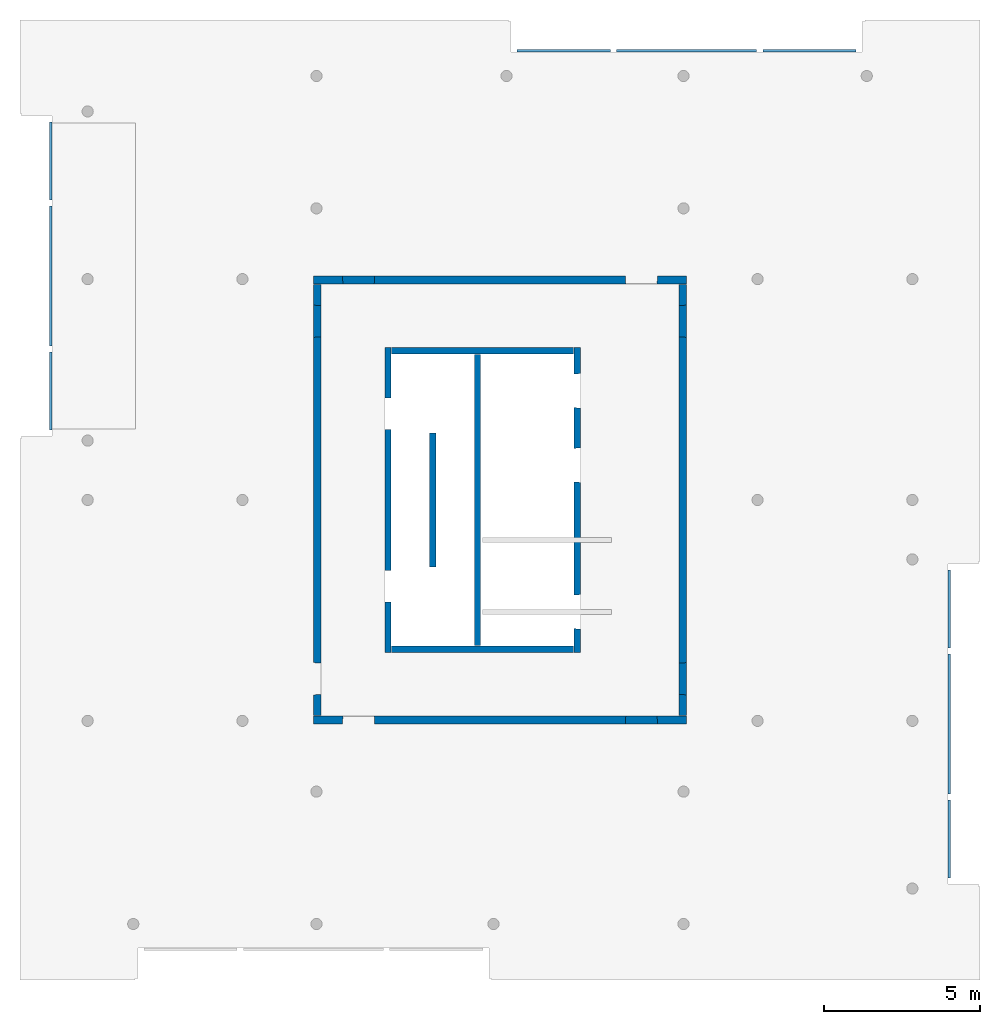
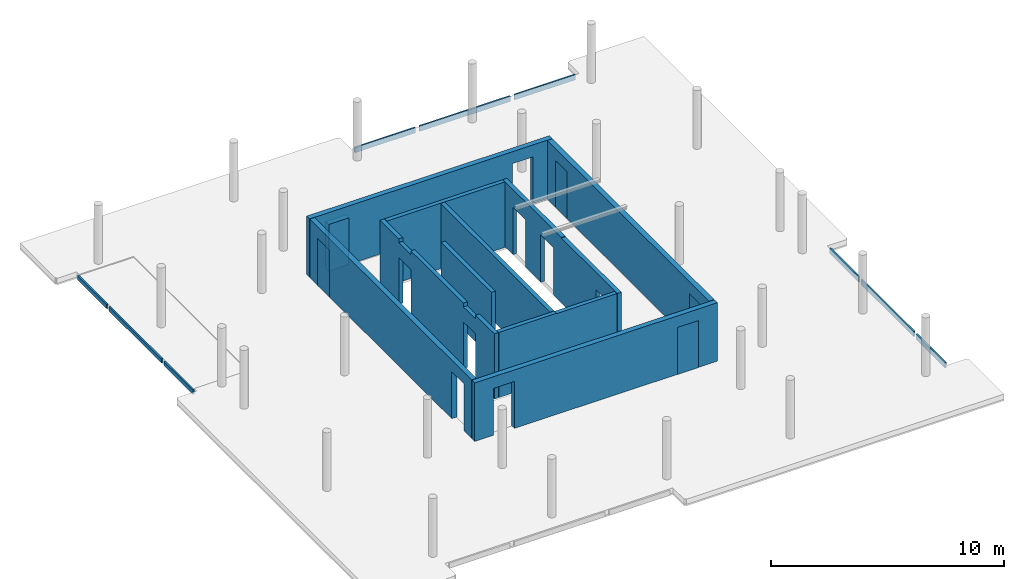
# One storey, part 2 of 3: 25 walls, 23 openings.
"""IFC2X3 building model written with IfcOpenShell, lengths in millimetres."""

from ifc_helpers import new_model, entity, si_unit, converted_unit, derived_unit, direction, frame, frame_2d, origin, origin_2d_with_axis, place, context, subcontext, project, spatial, rectangle, extrude, face_set, faceted_brep, surface_model, material, layer, layer_set, layer_usage, type_object, element, save


model = new_model("IFC2X3")

# Units and contexts
model_context = context("Model", 3, precision=0.01, world=origin(), true_north=direction((6.12303176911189e-17, 1.0)))
body_context = subcontext(model_context, "Body", "Model", "MODEL_VIEW")
ifc_project = project(units=[si_unit("LENGTHUNIT", "METRE", prefix="MILLI"), si_unit("AREAUNIT", "SQUARE_METRE"), si_unit("VOLUMEUNIT", "CUBIC_METRE"), converted_unit("PLANEANGLEUNIT", "DEGREE", entity("IfcRatioMeasure", 0.0174532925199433), si_unit("PLANEANGLEUNIT", "RADIAN"), dimensions=[0, 0, 0, 0, 0, 0, 0]), si_unit("MASSUNIT", "GRAM", prefix="KILO"), derived_unit("MASSDENSITYUNIT", [(si_unit("MASSUNIT", "GRAM", prefix="KILO"), 1), (si_unit("LENGTHUNIT", "METRE"), -3)]), si_unit("TIMEUNIT", "SECOND"), si_unit("FREQUENCYUNIT", "HERTZ"), si_unit("THERMODYNAMICTEMPERATUREUNIT", "DEGREE_CELSIUS"), derived_unit("THERMALTRANSMITTANCEUNIT", [(si_unit("MASSUNIT", "GRAM", prefix="KILO"), 1), (si_unit("THERMODYNAMICTEMPERATUREUNIT", "KELVIN"), -1), (si_unit("TIMEUNIT", "SECOND"), -3)]), derived_unit("VOLUMETRICFLOWRATEUNIT", [(si_unit("LENGTHUNIT", "METRE"), 3), (si_unit("TIMEUNIT", "SECOND"), -1)]), si_unit("ELECTRICCURRENTUNIT", "AMPERE"), si_unit("ELECTRICVOLTAGEUNIT", "VOLT"), si_unit("POWERUNIT", "WATT"), si_unit("FORCEUNIT", "NEWTON", prefix="KILO"), si_unit("ILLUMINANCEUNIT", "LUX"), si_unit("LUMINOUSFLUXUNIT", "LUMEN"), si_unit("LUMINOUSINTENSITYUNIT", "CANDELA"), derived_unit("USERDEFINED", [(si_unit("MASSUNIT", "GRAM", prefix="KILO"), -1), (si_unit("LENGTHUNIT", "METRE"), -2), (si_unit("TIMEUNIT", "SECOND"), 3), (si_unit("LUMINOUSFLUXUNIT", "LUMEN"), 1)]), derived_unit("LINEARVELOCITYUNIT", [(si_unit("LENGTHUNIT", "METRE"), 1), (si_unit("TIMEUNIT", "SECOND"), -1)]), si_unit("PRESSUREUNIT", "PASCAL"), derived_unit("USERDEFINED", [(si_unit("LENGTHUNIT", "METRE"), -2), (si_unit("MASSUNIT", "GRAM", prefix="KILO"), 1), (si_unit("TIMEUNIT", "SECOND"), -2)])], contexts=[model_context])

# Site, building, storey
site_placement = place(None, origin())
site = spatial("IfcSite", under=ifc_project, at=site_placement, Name="Default", CompositionType="ELEMENT")
building_placement = place(site_placement, origin())
building = spatial("IfcBuilding", under=site, at=building_placement, Name="niet gebruiken", CompositionType="ELEMENT")
storey_placement = place(building_placement, frame((0.0, 0.0, 171740.0)))
storey = spatial("IfcBuildingStorey", under=building, at=storey_placement, Name="55 vijfenvijftigste verdieping", CompositionType="ELEMENT", Elevation=171740.0)

# Wall, openings
ifc_material_1 = material(Name="NLRS_f2_beton prefab")
ifc_layer_1 = layer(ifc_material_1, 200.0)
ifc_layer_set_1 = layer_set([ifc_layer_1], Name="Basic Wall:NLRS_22.21_WA_beton prefab d=200_gen")
ifc_layer_usage_1 = layer_usage(ifc_layer_set_1, "AXIS2", "NEGATIVE", 100.0)
wall_type_1 = type_object("IfcWallType", Name="Basic Wall:NLRS_22.21_WA_beton prefab d=200_gen", PredefinedType="STANDARD", material=ifc_layer_set_1)
wall_1_placement = place(storey_placement, frame((138150.0, 22400.0, -50.0), z_axis=(0.0, 0.0, 1.0), x_axis=(0.0, -1.0, 0.0)))
wall_1 = element("IfcWallStandardCase", 1, at=wall_1_placement, inside=storey, type_object=wall_type_1, material=ifc_layer_usage_1, Name="Basic Wall:NLRS_22.21_WA_beton prefab d=200_gen", ObjectType="Basic Wall:NLRS_22.21_WA_beton prefab d=200_gen", context=body_context, shape_type="SweptSolid", body=[
    extrude(rectangle(XDim=9800.0, YDim=199.999999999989, at=frame_2d((4900.0, 3.76587649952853e-13), x_axis=(-1.0, 0.0))), origin(), (0.0, 0.0, 1.0), 3419.99999999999),
])
opening_1_placement = place(wall_1_placement, origin())
element("IfcOpeningElement", 2, at=opening_1_placement, cuts=wall_1, Name="Basic Wall:NLRS_22.21_WA_beton prefab d=200_gen", ObjectType="Opening", context=body_context, shape_type="SweptSolid", body=[
    extrude(rectangle(XDim=200.000000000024, YDim=1044.0, at=origin_2d_with_axis()), frame((7672.0, -100.0, 3320.0), z_axis=(0.0, 1.0, 0.0), x_axis=(0.0, 0.0, -1.0)), (0.0, 0.0, 1.0), 199.999999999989),
])
opening_2_placement = place(wall_1_placement, origin())
element("IfcOpeningElement", 3, at=opening_2_placement, cuts=wall_1, Name="Basic Wall:NLRS_22.21_WA_beton prefab d=200_gen", ObjectType="Opening", context=body_context, shape_type="SweptSolid", body=[
    extrude(rectangle(XDim=200.000000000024, YDim=1044.0, at=frame_2d((0.0, 2.1600499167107e-12), x_axis=(1.0, 0.0))), frame((2128.0, -100.0, 3320.0), z_axis=(0.0, 1.0, 0.0), x_axis=(0.0, 0.0, -1.0)), (0.0, 0.0, 1.0), 199.999999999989),
])
opening_3_placement = place(wall_1_placement, origin())
element("IfcOpeningElement", 4, at=opening_3_placement, cuts=wall_1, Name="Basic Wall:NLRS_22.21_WA_beton prefab d=200_gen", ObjectType="Opening", context=body_context, shape_type="SweptSolid", body=[
    extrude(rectangle(XDim=2434.99999999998, YDim=1015.99999999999, at=frame_2d((0.0, -1.10844666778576e-12), x_axis=(1.0, 0.0))), frame((7672.0, -100.0, 1217.49999999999), z_axis=(0.0, 1.0, 0.0), x_axis=(0.0, 0.0, -1.0)), (0.0, 0.0, 1.0), 199.999999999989),
])
opening_4_placement = place(wall_1_placement, origin())
element("IfcOpeningElement", 5, at=opening_4_placement, cuts=wall_1, Name="Basic Wall:NLRS_22.21_WA_beton prefab d=200_gen", ObjectType="Opening", context=body_context, shape_type="SweptSolid", body=[
    extrude(rectangle(XDim=2434.99999999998, YDim=1015.99999999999, at=frame_2d((0.0, -2.18847162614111e-12), x_axis=(1.0, 0.0))), frame((2128.0, -100.0, 1217.49999999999), z_axis=(0.0, 1.0, 0.0), x_axis=(0.0, 0.0, -1.0)), (0.0, 0.0, 1.0), 199.999999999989),
])

ifc_layer_usage_2 = layer_usage(ifc_layer_set_1, "AXIS2", "NEGATIVE", 100.0)
wall_2_placement = place(storey_placement, frame((144230.0, 22400.0, -50.0), z_axis=(0.0, 0.0, 1.0), x_axis=(0.0, -1.0, 0.0)))
wall_2 = element("IfcWallStandardCase", 6, at=wall_2_placement, inside=storey, type_object=wall_type_1, material=ifc_layer_usage_2, Name="Basic Wall:NLRS_22.21_WA_beton prefab d=200_gen", ObjectType="Basic Wall:NLRS_22.21_WA_beton prefab d=200_gen", context=body_context, shape_type="SweptSolid", body=[
    extrude(rectangle(XDim=9800.0, YDim=199.999999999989, at=frame_2d((4900.0, -3.69482222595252e-13), x_axis=(-1.0, 0.0))), origin(), (0.0, 0.0, 1.0), 3419.99999999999),
])
opening_5_placement = place(wall_2_placement, frame((4332.0, -100.0, 0.0)))
element("IfcOpeningElement", 7, at=opening_5_placement, cuts=wall_2, Name="Basic Wall:NLRS_22.21_WA_beton prefab d=200_gen", ObjectType="Opening", context=body_context, shape_type="Brep", body=[
    faceted_brep([(-1104.0, 200.0, 2502.0), (-1104.0, 200.0, 0.0), (-1092.0, 0.0, 0.0), (-1092.0, 0.0, 2490.0), (0.0, 200.0, 0.0), (-12.0, 0.0, 0.0), (-12.0, 0.0, 2490.0), (0.0, 200.0, 2502.0)], [[[0, 1, 2, 3]], [[1, 4, 5, 2]], [[6, 3, 2, 5]], [[7, 4, 1, 0]], [[7, 0, 3, 6]], [[4, 7, 6, 5]]]),
])
opening_6_placement = place(wall_2_placement, frame((1942.0, -100.0, 0.0)))
element("IfcOpeningElement", 8, at=opening_6_placement, cuts=wall_2, Name="Basic Wall:NLRS_22.21_WA_beton prefab d=200_gen", ObjectType="Opening", context=body_context, shape_type="Brep", body=[
    faceted_brep([(-1104.0, 200.0, 2502.0), (-1104.0, 200.0, 0.0), (-1092.0, 0.0, 0.0), (-1092.0, 0.0, 2490.0), (0.0, 200.0, 0.0), (-12.0, 0.0, 0.0), (-12.0, 0.0, 2490.0), (0.0, 200.0, 2502.0)], [[[0, 1, 2, 3]], [[1, 4, 5, 2]], [[6, 3, 2, 5]], [[7, 4, 1, 0]], [[7, 0, 3, 6]], [[4, 7, 6, 5]]]),
])
opening_7_placement = place(wall_2_placement, frame((9047.0, -100.0, 0.0)))
element("IfcOpeningElement", 9, at=opening_7_placement, cuts=wall_2, Name="Basic Wall:NLRS_22.21_WA_beton prefab d=200_gen", ObjectType="Opening", context=body_context, shape_type="Brep", body=[
    faceted_brep([(-12.0, 0.0, 2490.0), (-1092.0, 0.0, 2490.0), (-1092.0, 0.0, 0.0), (-12.0, 0.0, 0.0), (0.0, 200.0, 2502.0), (0.0, 200.0, 0.0), (-1104.0, 200.0, 0.0), (-1104.0, 200.0, 2502.0)], [[[0, 1, 2, 3]], [[4, 5, 6, 7]], [[4, 7, 1, 0]], [[7, 6, 2, 1]], [[6, 5, 3, 2]], [[5, 4, 0, 3]]]),
])
opening_8_placement = place(wall_2_placement, origin())
element("IfcOpeningElement", 10, at=opening_8_placement, cuts=wall_2, Name="Basic Wall:NLRS_22.21_WA_beton prefab d=200_gen", ObjectType="Opening", context=body_context, shape_type="SweptSolid", body=[
    extrude(rectangle(XDim=20.0000000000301, YDim=4800.0, at=frame_2d((1.73256964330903e-11, 0.0), x_axis=(1.0, 0.0))), frame((7400.0, 100.0, 3410.0), z_axis=(0.0, -1.0, 0.0), x_axis=(0.0, 0.0, 1.0)), (0.0, 0.0, 1.0), 200.0),
])

ifc_layer_usage_3 = layer_usage(ifc_layer_set_1, "AXIS2", "NEGATIVE", 100.0)
wall_3_placement = place(storey_placement, frame((141030.0, 22180.0, -50.0), z_axis=(0.0, 0.0, 1.0), x_axis=(0.0, -1.0, 0.0)))
wall_3 = element("IfcWallStandardCase", 11, at=wall_3_placement, inside=storey, type_object=wall_type_1, material=ifc_layer_usage_3, Name="Basic Wall:NLRS_22.21_WA_beton prefab d=200_gen", ObjectType="Basic Wall:NLRS_22.21_WA_beton prefab d=200_gen", context=body_context, shape_type="SweptSolid", body=[
    extrude(rectangle(XDim=9360.0, YDim=199.999999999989, at=frame_2d((4680.0, -2.8421709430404e-14), x_axis=(-1.0, 0.0))), origin(), (0.0, 0.0, 1.0), 3419.99999999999),
])
opening_9_placement = place(wall_3_placement, origin())
element("IfcOpeningElement", 12, at=opening_9_placement, cuts=wall_3, Name="Basic Wall:NLRS_22.21_WA_beton prefab d=200_gen", ObjectType="Opening", context=body_context, shape_type="SweptSolid", body=[
    extrude(rectangle(XDim=69.9999999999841, YDim=1044.0, at=frame_2d((-1.732658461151e-11, 2.1600499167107e-12), x_axis=(1.0, 0.0))), frame((1908.0, -100.0, 35.0), z_axis=(0.0, 1.0, 0.0), x_axis=(0.0, 0.0, -1.0)), (0.0, 0.0, 1.0), 199.999999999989),
])
opening_10_placement = place(wall_3_placement, origin())
element("IfcOpeningElement", 13, at=opening_10_placement, cuts=wall_3, Name="Basic Wall:NLRS_22.21_WA_beton prefab d=200_gen", ObjectType="Opening", context=body_context, shape_type="SweptSolid", body=[
    extrude(rectangle(XDim=69.9999999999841, YDim=1044.0, at=frame_2d((-1.732658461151e-11, 2.1600499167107e-12), x_axis=(1.0, 0.0))), frame((7452.0, -100.0, 35.0), z_axis=(0.0, 1.0, 0.0), x_axis=(0.0, 0.0, -1.0)), (0.0, 0.0, 1.0), 199.999999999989),
])
opening_11_placement = place(wall_3_placement, origin())
element("IfcOpeningElement", 14, at=opening_11_placement, cuts=wall_3, Name="Basic Wall:NLRS_22.21_WA_beton prefab d=200_gen", ObjectType="Recess", context=body_context, shape_type="SweptSolid", body=[
    extrude(rectangle(XDim=399.999999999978, YDim=280.000000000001, at=frame_2d((-2.1600499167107e-12, 0.0), x_axis=(0.0, 1.0))), frame((770.0, -60.0, 438.0), z_axis=(0.0, 1.0, 0.0), x_axis=(1.0, 0.0, 0.0)), (0.0, 0.0, 1.0), 159.999999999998),
])
opening_12_placement = place(wall_3_placement, origin())
element("IfcOpeningElement", 15, at=opening_12_placement, cuts=wall_3, Name="Basic Wall:NLRS_22.21_WA_beton prefab d=200_gen", ObjectType="Recess", context=body_context, shape_type="SweptSolid", body=[
    extrude(rectangle(XDim=399.999999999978, YDim=279.999999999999, at=frame_2d((1.08002495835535e-12, 0.0), x_axis=(0.0, 1.0))), frame((3160.0, -60.0, 438.0), z_axis=(0.0, 1.0, 0.0), x_axis=(1.0, 0.0, 0.0)), (0.0, 0.0, 1.0), 159.999999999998),
])
opening_13_placement = place(wall_3_placement, origin())
element("IfcOpeningElement", 16, at=opening_13_placement, cuts=wall_3, Name="Basic Wall:NLRS_22.21_WA_beton prefab d=200_gen", ObjectType="Recess", context=body_context, shape_type="SweptSolid", body=[
    extrude(rectangle(XDim=399.999999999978, YDim=279.999999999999, at=frame_2d((-1.08002495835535e-12, 0.0), x_axis=(0.0, 1.0))), frame((3960.0, -60.0, 438.0), z_axis=(0.0, 1.0, 0.0), x_axis=(1.0, 0.0, 0.0)), (0.0, 0.0, 1.0), 159.999999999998),
])
opening_14_placement = place(wall_3_placement, origin())
element("IfcOpeningElement", 17, at=opening_14_placement, cuts=wall_3, Name="Basic Wall:NLRS_22.21_WA_beton prefab d=200_gen", ObjectType="Recess", context=body_context, shape_type="SweptSolid", body=[
    extrude(rectangle(XDim=399.999999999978, YDim=280.000000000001, at=frame_2d((2.1600499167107e-12, 0.0), x_axis=(0.0, 1.0))), frame((1570.0, -60.0, 438.0), z_axis=(0.0, 1.0, 0.0), x_axis=(1.0, 0.0, 0.0)), (0.0, 0.0, 1.0), 159.999999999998),
])

# Wall
ifc_layer_usage_4 = layer_usage(ifc_layer_set_1, "AXIS2", "NEGATIVE", 100.0)
wall_4_placement = place(storey_placement, frame((139590.0, 19660.0, -50.0), z_axis=(0.0, 0.0, 1.0), x_axis=(0.0, -1.0, 0.0)))
element("IfcWallStandardCase", 18, at=wall_4_placement, inside=storey, type_object=wall_type_1, material=ifc_layer_usage_4, Name="Basic Wall:NLRS_22.21_WA_beton prefab d=200_gen", ObjectType="Basic Wall:NLRS_22.21_WA_beton prefab d=200_gen", context=body_context, shape_type="SweptSolid", body=[
    extrude(rectangle(XDim=4319.99999999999, YDim=199.999999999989, at=frame_2d((2160.0, 0.0), x_axis=(-1.0, 0.0))), origin(), (0.0, 0.0, 1.0), 3419.99999999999),
])

# Wall, opening
ifc_layer_usage_5 = layer_usage(ifc_layer_set_1, "AXIS2", "NEGATIVE", 100.0)
wall_5_placement = place(storey_placement, frame((138270.0, 12700.0, -50.0)))
wall_5 = element("IfcWallStandardCase", 19, at=wall_5_placement, inside=storey, type_object=wall_type_1, material=ifc_layer_usage_5, Name="Basic Wall:NLRS_22.21_WA_beton prefab d=200_gen", ObjectType="Basic Wall:NLRS_22.21_WA_beton prefab d=200_gen", context=body_context, shape_type="SweptSolid", body=[
    extrude(rectangle(XDim=5839.99999999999, YDim=200.000000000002, at=frame_2d((2919.99999999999, -6.89226453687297e-13), x_axis=(-1.0, 0.0))), origin(), (0.0, 0.0, 1.0), 3419.99999999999),
])
opening_15_placement = place(wall_5_placement, origin())
element("IfcOpeningElement", 20, at=opening_15_placement, cuts=wall_5, Name="Basic Wall:NLRS_22.21_WA_beton prefab d=200_gen", ObjectType="Opening", context=body_context, shape_type="SweptSolid", body=[
    extrude(rectangle(XDim=20.0000000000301, YDim=2980.0, at=frame_2d((1.73256964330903e-11, -8.64019966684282e-12), x_axis=(1.0, 0.0))), frame((4350.0, 100.0, 3410.0), z_axis=(0.0, -1.0, 0.0), x_axis=(0.0, 0.0, 1.0)), (0.0, 0.0, 1.0), 200.0),
])

# Wall
ifc_layer_usage_6 = layer_usage(ifc_layer_set_1, "AXIS2", "NEGATIVE", 100.0)
wall_6_placement = place(storey_placement, frame((138270.0, 22300.0, -50.0)))
element("IfcWallStandardCase", 21, at=wall_6_placement, inside=storey, type_object=wall_type_1, material=ifc_layer_usage_6, Name="Basic Wall:NLRS_22.21_WA_beton prefab d=200_gen", ObjectType="Basic Wall:NLRS_22.21_WA_beton prefab d=200_gen", context=body_context, shape_type="SweptSolid", body=[
    extrude(rectangle(XDim=5839.99999999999, YDim=199.999999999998, at=frame_2d((2919.99999999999, -7.60280727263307e-13), x_axis=(-1.0, 0.0))), origin(), (0.0, 0.0, 1.0), 3419.99999999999),
])

# Wall, openings
ifc_layer_2 = layer(ifc_material_1, 250.0)
ifc_layer_set_2 = layer_set([ifc_layer_2], Name="Basic Wall:NLRS_22.21_WA_beton prefab d=250_gen")
ifc_layer_usage_7 = layer_usage(ifc_layer_set_2, "AXIS2", "NEGATIVE", 125.0)
wall_type_2 = type_object("IfcWallType", Name="Basic Wall:NLRS_22.21_WA_beton prefab d=250_gen", PredefinedType="STANDARD", material=ifc_layer_set_2)
wall_7_placement = place(storey_placement, frame((135750.0, 24575.0, -60.0)))
wall_7 = element("IfcWallStandardCase", 22, at=wall_7_placement, inside=storey, type_object=wall_type_2, material=ifc_layer_usage_7, Name="Basic Wall:NLRS_22.21_WA_beton prefab d=250_gen", ObjectType="Basic Wall:NLRS_22.21_WA_beton prefab d=250_gen", context=body_context, shape_type="SweptSolid", body=[
    extrude(rectangle(XDim=12000.0000000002, YDim=250.000000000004, at=frame_2d((6000.0000000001, -2.77111666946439e-13), x_axis=(-1.0, 0.0))), origin(), (0.0, 0.0, 1.0), 3059.99999999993),
])
opening_16_placement = place(wall_7_placement, frame((10029.0, -125.0, -10.0)))
element("IfcOpeningElement", 23, at=opening_16_placement, cuts=wall_7, Name="Basic Wall:NLRS_22.21_WA_beton prefab d=250_gen", ObjectType="Opening", context=body_context, shape_type="Brep", body=[
    faceted_brep([(0.0, 250.0, 2463.0), (0.0, 250.0, 0.0), (15.0, 0.0, 0.0), (15.0, 0.0, 2448.0), (1036.0, 250.0, 0.0), (1021.0, 0.0, 0.0), (1021.0, 0.0, 2448.0), (1036.0, 250.0, 2463.0)], [[[0, 1, 2, 3]], [[1, 4, 5, 2]], [[6, 3, 2, 5]], [[7, 4, 1, 0]], [[7, 0, 3, 6]], [[4, 7, 6, 5]]]),
])
opening_17_placement = place(wall_7_placement, frame((935.0, -125.0, -10.0)))
element("IfcOpeningElement", 24, at=opening_17_placement, cuts=wall_7, Name="Basic Wall:NLRS_22.21_WA_beton prefab d=250_gen", ObjectType="Opening", context=body_context, shape_type="Brep", body=[
    faceted_brep([(0.0, 250.0, 2463.0), (0.0, 250.0, 0.0), (15.0, 0.0, 0.0), (15.0, 0.0, 2448.0), (1036.0, 250.0, 0.0), (1021.0, 0.0, 0.0), (1021.0, 0.0, 2448.0), (1036.0, 250.0, 2463.0)], [[[0, 1, 2, 3]], [[1, 4, 5, 2]], [[6, 3, 2, 5]], [[7, 4, 1, 0]], [[7, 0, 3, 6]], [[4, 7, 6, 5]]]),
])

ifc_layer_usage_8 = layer_usage(ifc_layer_set_2, "AXIS2", "NEGATIVE", 125.0)
wall_8_placement = place(storey_placement, frame((135875.0, 24430.0, -60.0), z_axis=(0.0, 0.0, 1.0), x_axis=(0.0, -1.0, 0.0)))
wall_8 = element("IfcWallStandardCase", 25, at=wall_8_placement, inside=storey, type_object=wall_type_2, material=ifc_layer_usage_8, Name="Basic Wall:NLRS_22.21_WA_beton prefab d=250_gen", ObjectType="Basic Wall:NLRS_22.21_WA_beton prefab d=250_gen", context=body_context, shape_type="SweptSolid", body=[
    extrude(rectangle(XDim=13860.0, YDim=250.000000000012, at=frame_2d((6930.0, -2.8421709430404e-14), x_axis=(-1.0, 0.0))), origin(), (0.0, 0.0, 1.0), 3059.99999999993),
])
opening_18_placement = place(wall_8_placement, frame((13195.0, -125.0, -10.0)))
element("IfcOpeningElement", 26, at=opening_18_placement, cuts=wall_8, Name="Basic Wall:NLRS_22.21_WA_beton prefab d=250_gen", ObjectType="Opening", context=body_context, shape_type="Brep", body=[
    faceted_brep([(-1036.0, 0.0, 2463.0), (-1021.0, 250.0, 2448.0), (-1021.0, 250.0, 0.0), (-1036.0, 0.0, 0.0), (-15.0, 250.0, 0.0), (0.0, 0.0, 0.0), (-15.0, 250.0, 2448.0), (0.0, 0.0, 2463.0)], [[[0, 1, 2, 3]], [[3, 2, 4, 5]], [[6, 4, 2, 1]], [[7, 0, 3, 5]], [[7, 6, 1, 0]], [[5, 4, 6, 7]]]),
])
opening_19_placement = place(wall_8_placement, frame((1701.0, -125.0, -10.0)))
element("IfcOpeningElement", 27, at=opening_19_placement, cuts=wall_8, Name="Basic Wall:NLRS_22.21_WA_beton prefab d=250_gen", ObjectType="Opening", context=body_context, shape_type="Brep", body=[
    faceted_brep([(-1036.0, 0.0, 2463.0), (-1021.0, 250.0, 2448.0), (-1021.0, 250.0, 0.0), (-1036.0, 0.0, 0.0), (-15.0, 250.0, 0.0), (0.0, 0.0, 0.0), (-15.0, 250.0, 2448.0), (0.0, 0.0, 2463.0)], [[[0, 1, 2, 3]], [[3, 2, 4, 5]], [[6, 4, 2, 1]], [[7, 0, 3, 5]], [[7, 6, 1, 0]], [[5, 4, 6, 7]]]),
])

ifc_layer_usage_9 = layer_usage(ifc_layer_set_2, "AXIS2", "NEGATIVE", 125.0)
wall_9_placement = place(storey_placement, frame((135750.0, 10425.0, -60.0)))
wall_9 = element("IfcWallStandardCase", 28, at=wall_9_placement, inside=storey, type_object=wall_type_2, material=ifc_layer_usage_9, Name="Basic Wall:NLRS_22.21_WA_beton prefab d=250_gen", ObjectType="Basic Wall:NLRS_22.21_WA_beton prefab d=250_gen", context=body_context, shape_type="SweptSolid", body=[
    extrude(rectangle(XDim=11999.9999999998, YDim=249.999999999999, at=frame_2d((5999.99999999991, 8.02913291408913e-13), x_axis=(-1.0, 0.0))), origin(), (0.0, 0.0, 1.0), 3059.99999999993),
])
opening_20_placement = place(wall_9_placement, frame((10029.0, -125.0, -10.0)))
element("IfcOpeningElement", 29, at=opening_20_placement, cuts=wall_9, Name="Basic Wall:NLRS_22.21_WA_beton prefab d=250_gen", ObjectType="Opening", context=body_context, shape_type="Brep", body=[
    faceted_brep([(0.0, 0.0, 2463.0), (15.0, 250.0, 2448.0), (15.0, 250.0, 0.0), (0.0, 0.0, 0.0), (1021.0, 250.0, 0.0), (1036.0, 0.0, 0.0), (1021.0, 250.0, 2448.0), (1036.0, 0.0, 2463.0)], [[[0, 1, 2, 3]], [[3, 2, 4, 5]], [[6, 4, 2, 1]], [[7, 0, 3, 5]], [[7, 6, 1, 0]], [[5, 4, 6, 7]]]),
])
opening_21_placement = place(wall_9_placement, frame((935.0, -125.0, -10.0)))
element("IfcOpeningElement", 30, at=opening_21_placement, cuts=wall_9, Name="Basic Wall:NLRS_22.21_WA_beton prefab d=250_gen", ObjectType="Opening", context=body_context, shape_type="Brep", body=[
    faceted_brep([(0.0, 0.0, 2463.0), (15.0, 250.0, 2448.0), (15.0, 250.0, 0.0), (0.0, 0.0, 0.0), (1021.0, 250.0, 0.0), (1036.0, 0.0, 0.0), (1021.0, 250.0, 2448.0), (1036.0, 0.0, 2463.0)], [[[0, 1, 2, 3]], [[3, 2, 4, 5]], [[6, 4, 2, 1]], [[7, 0, 3, 5]], [[7, 6, 1, 0]], [[5, 4, 6, 7]]]),
])

ifc_layer_usage_10 = layer_usage(ifc_layer_set_2, "AXIS2", "NEGATIVE", 125.0)
wall_10_placement = place(storey_placement, frame((147625.0, 24430.0, -70.0), z_axis=(0.0, 0.0, 1.0), x_axis=(0.0, -1.0, 0.0)))
wall_10 = element("IfcWallStandardCase", 31, at=wall_10_placement, inside=storey, type_object=wall_type_2, material=ifc_layer_usage_10, Name="Basic Wall:NLRS_22.21_WA_beton prefab d=250_gen", ObjectType="Basic Wall:NLRS_22.21_WA_beton prefab d=250_gen", context=body_context, shape_type="SweptSolid", body=[
    extrude(rectangle(XDim=13860.0, YDim=250.000000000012, at=frame_2d((6930.0, -2.8421709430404e-14), x_axis=(-1.0, 0.0))), origin(), (0.0, 0.0, 1.0), 3069.99999999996),
])
opening_22_placement = place(wall_10_placement, frame((13195.0, -125.0, 0.0)))
element("IfcOpeningElement", 32, at=opening_22_placement, cuts=wall_10, Name="Basic Wall:NLRS_22.21_WA_beton prefab d=250_gen", ObjectType="Opening", context=body_context, shape_type="Brep", body=[
    faceted_brep([(-1036.0, 250.0, 2463.0), (-1036.0, 250.0, 0.0), (-1021.0, 0.0, 0.0), (-1021.0, 0.0, 2448.0), (0.0, 250.0, 0.0), (-15.0, 0.0, 0.0), (-15.0, 0.0, 2448.0), (0.0, 250.0, 2463.0)], [[[0, 1, 2, 3]], [[1, 4, 5, 2]], [[6, 3, 2, 5]], [[7, 4, 1, 0]], [[7, 0, 3, 6]], [[4, 7, 6, 5]]]),
])
opening_23_placement = place(wall_10_placement, frame((1701.0, -125.0, 0.0)))
element("IfcOpeningElement", 33, at=opening_23_placement, cuts=wall_10, Name="Basic Wall:NLRS_22.21_WA_beton prefab d=250_gen", ObjectType="Opening", context=body_context, shape_type="Brep", body=[
    faceted_brep([(-1036.0, 250.0, 2463.0), (-1036.0, 250.0, 0.0), (-1021.0, 0.0, 0.0), (-1021.0, 0.0, 2448.0), (0.0, 250.0, 0.0), (-15.0, 0.0, 0.0), (-15.0, 0.0, 2448.0), (0.0, 250.0, 2463.0)], [[[0, 1, 2, 3]], [[1, 4, 5, 2]], [[6, 3, 2, 5]], [[7, 4, 1, 0]], [[7, 0, 3, 6]], [[4, 7, 6, 5]]]),
])

# Walls
ifc_material_2 = material(Name="NLRS_f2_beton prefab dichtstorten")
wall_type_3 = type_object("IfcWallType", Name="Parametric Wall:NLRS_22.21_WA_beton prefab d=250 1006x2448_gen", PredefinedType="NOTDEFINED", material=ifc_material_2)
wall_11_placement = place(storey_placement, frame((136685.0, 24450.0, -70.0)))
element("IfcWall", 34, at=wall_11_placement, inside=storey, type_object=wall_type_3, material=ifc_material_2, Name="Parametric Wall:NLRS_22.21_WA_beton prefab d=250 1006x2448_gen", ObjectType="Parametric Wall:NLRS_22.21_WA_beton prefab d=250 1006x2448_gen", context=body_context, shape_type="SurfaceModel", body=[
    surface_model("IfcFaceBasedSurfaceModel", [(1036.0, 250.0, 2463.0), (1036.0, 250.0, 0.0), (0.0, 250.0, 0.0), (0.0, 250.0, 2463.0), (1021.0, 0.0, 2448.0), (1021.0, 0.0, 0.0), (15.0, 0.0, 0.0), (15.0, 0.0, 2448.0)], [face_set([[[0, 1, 2, 3]], [[4, 5, 6, 7]], [[4, 5, 1, 0]], [[5, 6, 2, 1]], [[6, 2, 3, 7]], [[7, 4, 0, 3]]])]),
])
wall_12_placement = place(storey_placement, frame((135750.0, 22729.0, -70.0), z_axis=(0.0, 0.0, 1.0), x_axis=(0.0, 1.0, 0.0)))
element("IfcWall", 35, at=wall_12_placement, inside=storey, type_object=wall_type_3, material=ifc_material_2, Name="Parametric Wall:NLRS_22.21_WA_beton prefab d=250 1006x2448_gen", ObjectType="Parametric Wall:NLRS_22.21_WA_beton prefab d=250 1006x2448_gen", context=body_context, shape_type="Brep", body=[
    faceted_brep([(1036.0, 0.0, 2463.0), (1036.0, 0.0, 10.0), (1036.0, 0.0, 0.0), (0.0, 0.0, 0.0), (0.0, 0.0, 10.0), (0.0, 0.0, 2463.0), (1021.0, -250.0, 2448.0), (15.0, -250.0, 2448.0), (15.0, -250.0, 10.0), (15.0, -250.0, 0.0), (1021.0, -250.0, 0.0), (1021.0, -250.0, 10.0)], [[[0, 1, 2, 3, 4, 5]], [[6, 7, 8, 9, 10, 11]], [[6, 11, 10, 2, 1, 0]], [[9, 8, 7, 5, 4, 3]], [[10, 9, 3, 2]], [[7, 6, 0, 5]]]),
])
wall_13_placement = place(storey_placement, frame((145779.0, 10300.0, -70.0)))
element("IfcWall", 36, at=wall_13_placement, inside=storey, type_object=wall_type_3, material=ifc_material_2, Name="Parametric Wall:NLRS_22.21_WA_beton prefab d=250 1006x2448_gen", ObjectType="Parametric Wall:NLRS_22.21_WA_beton prefab d=250 1006x2448_gen", context=body_context, shape_type="Brep", body=[
    faceted_brep([(0.0, 0.0, 2463.0), (0.0, 0.0, 10.0), (0.0, 0.0, 0.0), (1036.0, 0.0, 0.0), (1036.0, 0.0, 10.0), (1036.0, 0.0, 2463.0), (15.0, 250.0, 2448.0), (1021.0, 250.0, 2448.0), (1021.0, 250.0, 10.0), (1021.0, 250.0, 0.0), (15.0, 250.0, 0.0), (15.0, 250.0, 10.0)], [[[0, 1, 2, 3, 4, 5]], [[6, 7, 8, 9, 10, 11]], [[6, 11, 10, 2, 1, 0]], [[9, 8, 7, 5, 4, 3]], [[10, 9, 3, 2]], [[7, 6, 0, 5]]]),
])
for number, where, z_axis, x_axis in (
    (37, (147500.0, 11235.0, -70.0), (0.0, 0.0, 1.0), (0.0, 1.0, 0.0)),
    (38, (147500.0, 22729.0, -70.0), (0.0, 0.0, 1.0), (0.0, 1.0, 0.0)),
):
    element("IfcWall", number, at=place(storey_placement, frame(where, z_axis=z_axis, x_axis=x_axis)), inside=storey, type_object=wall_type_3, material=ifc_material_2, Name="Parametric Wall:NLRS_22.21_WA_beton prefab d=250 1006x2448_gen", ObjectType="Parametric Wall:NLRS_22.21_WA_beton prefab d=250 1006x2448_gen", context=body_context, shape_type="Brep", body=[
        faceted_brep([(0.0, -250.0, 2463.0), (0.0, -250.0, 0.0), (1036.0, -250.0, 0.0), (1036.0, -250.0, 2463.0), (15.0, 0.0, 2448.0), (1021.0, 0.0, 2448.0), (1021.0, 0.0, 0.0), (15.0, 0.0, 0.0)], [[[0, 1, 2, 3]], [[4, 5, 6, 7]], [[4, 7, 1, 0]], [[6, 5, 3, 2]], [[7, 6, 2, 1]], [[5, 4, 0, 3]]]),
    ])
wall_14_placement = place(storey_placement, frame((136685.0, 24450.0, -70.0)))
element("IfcWall", 39, at=wall_14_placement, inside=storey, type_object=wall_type_3, material=ifc_material_2, Name="Parametric Wall:NLRS_22.21_WA_beton prefab d=250 1006x2448_gen", ObjectType="Parametric Wall:NLRS_22.21_WA_beton prefab d=250 1006x2448_gen", context=body_context, shape_type="Brep", body=[
    faceted_brep([(1036.0, 250.0, 2463.0), (1036.0, 250.0, 10.0), (1036.0, 250.0, 0.0), (0.0, 250.0, 0.0), (0.0, 250.0, 10.0), (0.0, 250.0, 2463.0), (1021.0, 0.0, 2448.0), (15.0, 0.0, 2448.0), (15.0, 0.0, 10.0), (15.0, 0.0, 0.0), (1021.0, 0.0, 0.0), (1021.0, 0.0, 10.0)], [[[0, 1, 2, 3, 4, 5]], [[6, 7, 8, 9, 10, 11]], [[6, 11, 10, 2, 1, 0]], [[9, 8, 7, 5, 4, 3]], [[10, 9, 3, 2]], [[7, 6, 0, 5]]]),
])
ifc_material_3 = material(Name="NLRS_a_isolatie")
ifc_layer_3 = layer(ifc_material_3, 80.0)
ifc_layer_set_3 = layer_set([ifc_layer_3], Name="Basic Wall:NLRS_21.10_WA_isokorf d=80_gen")
ifc_layer_usage_11 = layer_usage(ifc_layer_set_3, "AXIS2", "NEGATIVE", 40.0)
wall_type_4 = type_object("IfcWallType", Name="Basic Wall:NLRS_21.10_WA_isokorf d=80_gen", PredefinedType="STANDARD", material=ifc_layer_set_3)
wall_15_placement = place(storey_placement, frame((145500.0, 31945.0, -360.0)))
element("IfcWallStandardCase", 40, at=wall_15_placement, inside=storey, type_object=wall_type_4, material=ifc_layer_usage_11, Name="Basic Wall:NLRS_21.10_WA_isokorf d=80_gen", ObjectType="Basic Wall:NLRS_21.10_WA_isokorf d=80_gen", context=body_context, shape_type="SweptSolid", body=[
    extrude(rectangle(XDim=4500.00000000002, YDim=79.9999999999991, at=frame_2d((2250.00000000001, -1.45661260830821e-12), x_axis=(-1.0, 0.0))), origin(), (0.0, 0.0, 1.0), 269.999999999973),
])
ifc_layer_usage_12 = layer_usage(ifc_layer_set_3, "AXIS2", "NEGATIVE", 40.0)
wall_16_placement = place(storey_placement, frame((127305.0, 22450.0, -360.0), z_axis=(0.0, 0.0, 1.0), x_axis=(0.0, 1.0, 0.0)))
element("IfcWallStandardCase", 41, at=wall_16_placement, inside=storey, type_object=wall_type_4, material=ifc_layer_usage_12, Name="Basic Wall:NLRS_21.10_WA_isokorf d=80_gen", ObjectType="Basic Wall:NLRS_21.10_WA_isokorf d=80_gen", context=body_context, shape_type="SweptSolid", body=[
    extrude(rectangle(XDim=4499.99999999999, YDim=80.0000000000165, at=frame_2d((2250.0, 3.5420555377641e-12), x_axis=(-1.0, 0.0))), origin(), (0.0, 0.0, 1.0), 220.000000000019),
])
ifc_layer_usage_13 = layer_usage(ifc_layer_set_3, "AXIS2", "POSITIVE", -40.0)
wall_17_placement = place(storey_placement, frame((156195.0, 12550.0, -360.0), z_axis=(0.0, 0.0, 1.0), x_axis=(0.0, -1.0, 0.0)))
element("IfcWallStandardCase", 42, at=wall_17_placement, inside=storey, type_object=wall_type_4, material=ifc_layer_usage_13, Name="Basic Wall:NLRS_21.10_WA_isokorf d=80_gen", ObjectType="Basic Wall:NLRS_21.10_WA_isokorf d=80_gen", context=body_context, shape_type="SweptSolid", body=[
    extrude(rectangle(XDim=4500.0, YDim=79.9999999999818, at=frame_2d((2250.0, -6.12487838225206e-12), x_axis=(-1.0, 0.0))), origin(), (0.0, 0.0, 1.0), 269.999999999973),
])
ifc_layer_usage_14 = layer_usage(ifc_layer_set_3, "AXIS2", "NEGATIVE", 40.0)
wall_18_placement = place(storey_placement, frame((142300.0, 31945.0, -360.0)))
element("IfcWallStandardCase", 43, at=wall_18_placement, inside=storey, type_object=wall_type_4, material=ifc_layer_usage_14, Name="Basic Wall:NLRS_21.10_WA_isokorf d=80_gen", ObjectType="Basic Wall:NLRS_21.10_WA_isokorf d=80_gen", context=body_context, shape_type="SweptSolid", body=[
    extrude(rectangle(XDim=2999.99999999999, YDim=79.9999999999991, at=frame_2d((1500.0, 4.72510919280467e-13), x_axis=(-1.0, 0.0))), origin(), (0.0, 0.0, 1.0), 269.999999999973),
])
ifc_layer_usage_15 = layer_usage(ifc_layer_set_3, "AXIS2", "NEGATIVE", 40.0)
wall_19_placement = place(storey_placement, frame((150200.0, 31945.0, -360.0)))
element("IfcWallStandardCase", 44, at=wall_19_placement, inside=storey, type_object=wall_type_4, material=ifc_layer_usage_15, Name="Basic Wall:NLRS_21.10_WA_isokorf d=80_gen", ObjectType="Basic Wall:NLRS_21.10_WA_isokorf d=80_gen", context=body_context, shape_type="SweptSolid", body=[
    extrude(rectangle(XDim=2999.99999999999, YDim=79.9999999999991, at=frame_2d((1500.0, 4.72510919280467e-13), x_axis=(-1.0, 0.0))), origin(), (0.0, 0.0, 1.0), 269.999999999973),
])
ifc_layer_usage_16 = layer_usage(ifc_layer_set_3, "AXIS2", "NEGATIVE", 40.0)
wall_20_placement = place(storey_placement, frame((127305.0, 27150.0, -360.0), z_axis=(0.0, 0.0, 1.0), x_axis=(0.0, 1.0, 0.0)))
element("IfcWallStandardCase", 45, at=wall_20_placement, inside=storey, type_object=wall_type_4, material=ifc_layer_usage_16, Name="Basic Wall:NLRS_21.10_WA_isokorf d=80_gen", ObjectType="Basic Wall:NLRS_21.10_WA_isokorf d=80_gen", context=body_context, shape_type="SweptSolid", body=[
    extrude(rectangle(XDim=2500.0, YDim=80.0000000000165, at=frame_2d((1250.0, 1.00541797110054e-12), x_axis=(-1.0, 0.0))), origin(), (0.0, 0.0, 1.0), 220.000000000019),
])
ifc_layer_usage_17 = layer_usage(ifc_layer_set_3, "AXIS2", "NEGATIVE", 40.0)
wall_21_placement = place(storey_placement, frame((127305.0, 19750.0, -360.0), z_axis=(0.0, 0.0, 1.0), x_axis=(0.0, 1.0, 0.0)))
element("IfcWallStandardCase", 46, at=wall_21_placement, inside=storey, type_object=wall_type_4, material=ifc_layer_usage_17, Name="Basic Wall:NLRS_21.10_WA_isokorf d=80_gen", ObjectType="Basic Wall:NLRS_21.10_WA_isokorf d=80_gen", context=body_context, shape_type="SweptSolid", body=[
    extrude(rectangle(XDim=2500.0, YDim=80.0000000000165, at=frame_2d((1250.0, 1.00541797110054e-12), x_axis=(-1.0, 0.0))), origin(), (0.0, 0.0, 1.0), 220.000000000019),
])
ifc_layer_usage_18 = layer_usage(ifc_layer_set_3, "AXIS2", "POSITIVE", -40.0)
wall_22_placement = place(storey_placement, frame((156195.0, 15250.0, -360.0), z_axis=(0.0, 0.0, 1.0), x_axis=(0.0, -1.0, 0.0)))
element("IfcWallStandardCase", 47, at=wall_22_placement, inside=storey, type_object=wall_type_4, material=ifc_layer_usage_18, Name="Basic Wall:NLRS_21.10_WA_isokorf d=80_gen", ObjectType="Basic Wall:NLRS_21.10_WA_isokorf d=80_gen", context=body_context, shape_type="SweptSolid", body=[
    extrude(rectangle(XDim=2499.99999999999, YDim=79.9999999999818, at=frame_2d((1250.0, 6.22435436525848e-12), x_axis=(-1.0, 0.0))), origin(), (0.0, 0.0, 1.0), 269.999999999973),
])
ifc_layer_usage_19 = layer_usage(ifc_layer_set_3, "AXIS2", "POSITIVE", -40.0)
wall_23_placement = place(storey_placement, frame((156195.0, 7850.0, -360.0), z_axis=(0.0, 0.0, 1.0), x_axis=(0.0, -1.0, 0.0)))
element("IfcWallStandardCase", 48, at=wall_23_placement, inside=storey, type_object=wall_type_4, material=ifc_layer_usage_19, Name="Basic Wall:NLRS_21.10_WA_isokorf d=80_gen", ObjectType="Basic Wall:NLRS_21.10_WA_isokorf d=80_gen", context=body_context, shape_type="SweptSolid", body=[
    extrude(rectangle(XDim=2500.0, YDim=79.9999999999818, at=frame_2d((1250.0, 6.22435436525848e-12), x_axis=(-1.0, 0.0))), origin(), (0.0, 0.0, 1.0), 269.999999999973),
])

save(model, "model.ifc")
